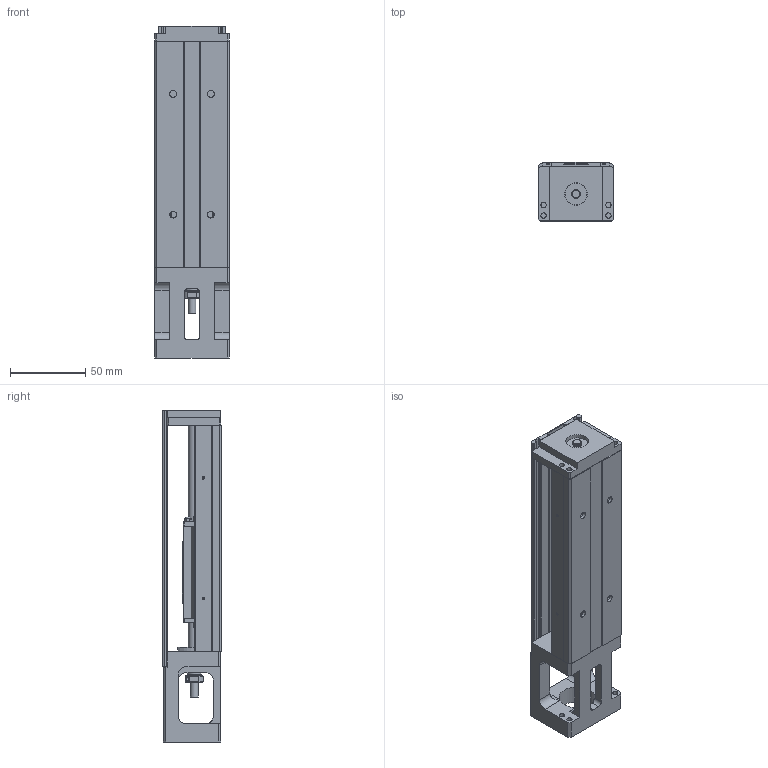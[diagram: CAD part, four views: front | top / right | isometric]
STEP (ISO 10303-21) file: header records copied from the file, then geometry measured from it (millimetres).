
FILE_DESCRIPTION(/* description */ (''),/* implementation_level */ '2;1');
FILE_NAME(/* name */ '26-150C.stp',/* time_stamp */ '2016-12-16T14:54:39+08:00',/* author */ (''),/* organization */ (''),/* preprocessor_version */ 'ST-DEVELOPER v11',/* originating_system */ 'SIEMENS UGS NX 6.0',/* authorisation */ '');
FILE_SCHEMA (('AUTOMOTIVE_DESIGN { 1 0 10303 214 1 1 1 1 }'));
Length unit declared in the file: millimetre
Products named in the file (1): model4
Bounding box: 50 x 39 x 220 mm (x, y, z)
Volume: 197384.5 mm3; surface area: 82974.4 mm2
Topology: 6 solids, 11 shells, 659 faces, 1727 edges, 1118 vertices
Faces by surface type: plane 353, cylinder 214, cone 61, bspline 20, torus 6, extrusion 4, sphere 1
Full cylindrical faces by diameter (mm): 1.6 x4, 2.42 x6, 2.5 x5, 2.8 x6, 3.2 x4, 3.3 x6, 3.5 x6, 4 x4, 4.5 x4, 5 x7, 5.7 x1, 6 x9, 8 x5, 9 x2, 10 x1, 15 x2, 16.9 x1
Entity records: 28774 total; most frequent: CARTESIAN_POINT 9982, DIRECTION 3151, ORIENTED_EDGE 3098, EDGE_CURVE 1549, AXIS2_PLACEMENT_3D 1114, VERTEX_POINT 1071, VECTOR 923, LINE 919
